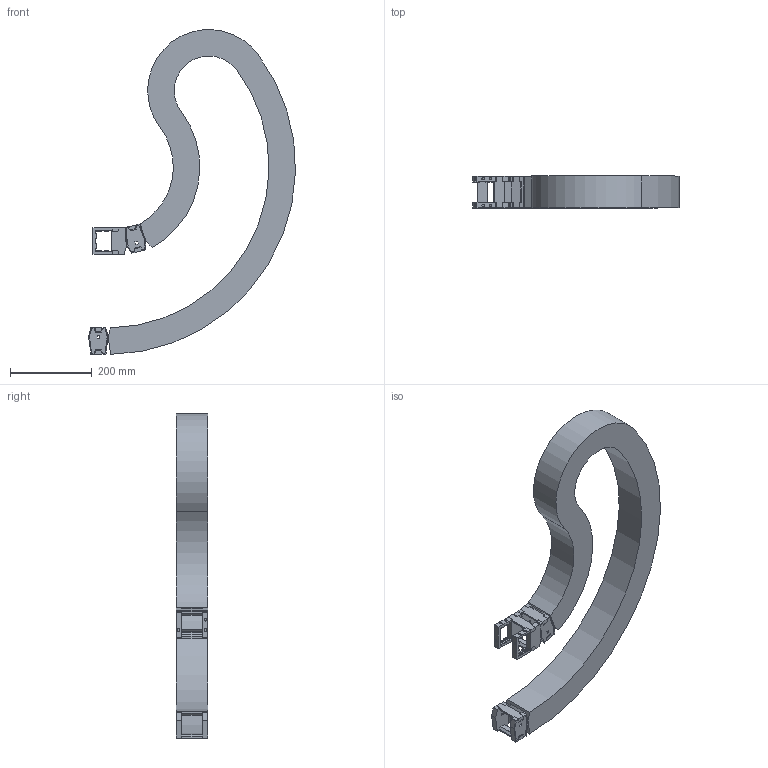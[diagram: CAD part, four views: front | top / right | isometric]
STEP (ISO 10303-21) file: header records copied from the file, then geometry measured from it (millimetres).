
FILE_DESCRIPTION( ( 'STEP AP214' ), '1' );
FILE_NAME( 'p:/temp/worker_35/temp/exporttempdir_1060_2067_Xfnjm/format_1/RV048CRA788616090300450-00502474.68352.stp', '2021-07-27T04:41:12', ( 'License CC BY-ND 4.0' ), ( 'CADENAS' ), ' ', 'PARTsolutions', ' ' );
FILE_SCHEMA( ( 'AUTOMOTIVE_DESIGN { 1 0 10303 214 1 1 1 1 }' ) );
Length unit declared in the file: millimetre
Products named in the file (4): RV048CRA788616090300450-00502474.68352; _RV048CRA788616090300450-00521501.283-Chain; _RV048CR-SU-48-50; _RV048CR_FB-78
Assembly tree (4 placements, depth 2):
  RV048CRA788616090300450-00502474.68352
    _RV048CRA788616090300450-00521501.283-Chain
    _RV048CR-SU-48-50  x2
    _RV048CR_FB-78
Bounding box: 507.79 x 78 x 796.98 mm (x, y, z)
Volume: 4097838.8 mm3; surface area: 901709.9 mm2
Topology: 4 solids, 4 shells, 507 faces, 1482 edges, 980 vertices
Faces by surface type: plane 389, cylinder 118
Full cylindrical faces by diameter (mm): 6 x12
Entity records: 14298 total; most frequent: CARTESIAN_POINT 2024, ORIENTED_EDGE 2004, DIRECTION 1890, EDGE_CURVE 1002, LINE 822, VECTOR 822, VERTEX_POINT 668, AXIS2_PLACEMENT_3D 534
